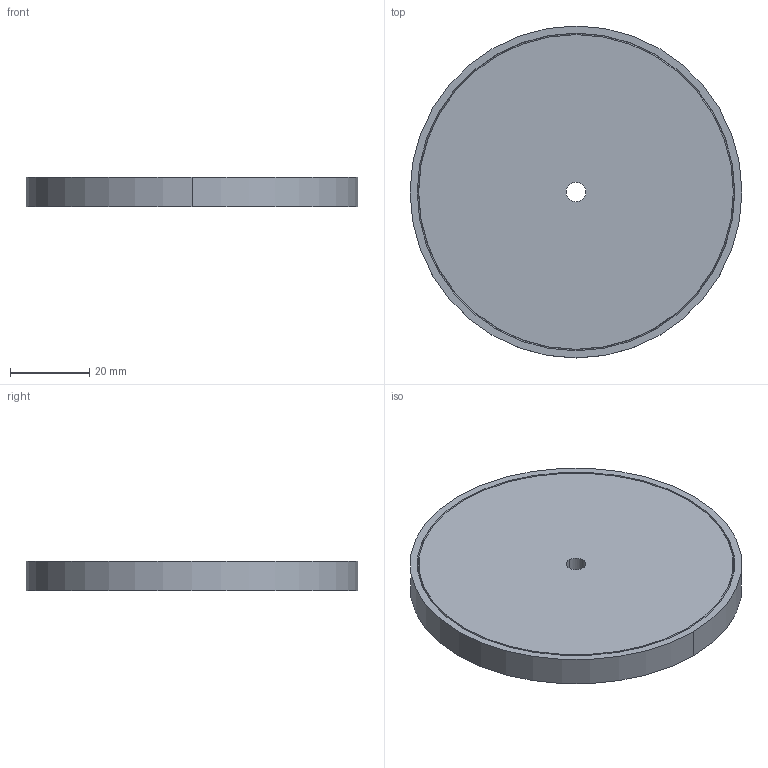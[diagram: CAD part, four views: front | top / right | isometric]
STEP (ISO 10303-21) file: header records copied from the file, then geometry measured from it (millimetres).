
FILE_DESCRIPTION( ( '' ), '1' );
FILE_NAME( '//partserver001.servicenet/client_exchange/iodir/jobs/output/wkb18264300_no0/STEP/e20005_2_03.stp', '2009-08-26T14:19:12', ( '' ), ( '' ), ' ', ' ', ' ' );
FILE_SCHEMA( ( 'CONFIG_CONTROL_DESIGN' ) );
Length unit declared in the file: millimetre
Products named in the file (1): 1
Bounding box: 84 x 84 x 7.5 mm (x, y, z)
Volume: 41393.1 mm3; surface area: 13317.3 mm2
Topology: 1 solids, 1 shells, 11 faces, 22 edges, 14 vertices
Faces by surface type: cylinder 4, cone 4, plane 3
Entity records: 342 total; most frequent: DIRECTION 60, CARTESIAN_POINT 48, ORIENTED_EDGE 44, AXIS2_PLACEMENT_3D 26, EDGE_CURVE 22, EDGE_LOOP 14, VERTEX_POINT 14, CIRCLE 14
